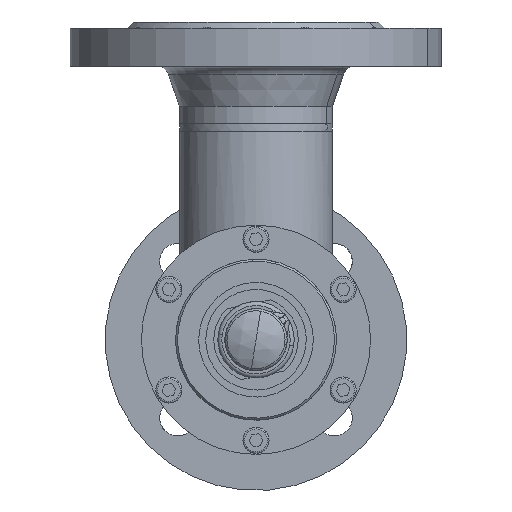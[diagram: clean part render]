
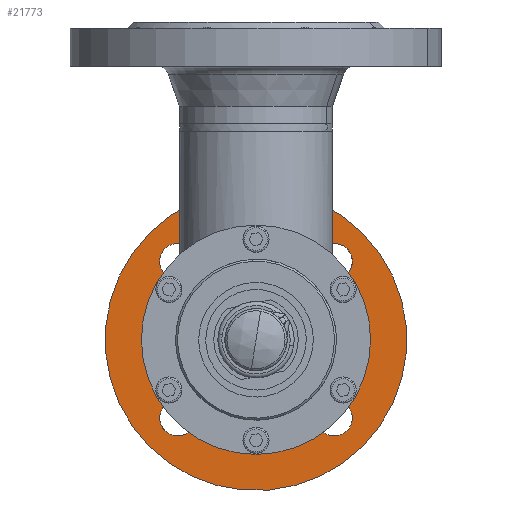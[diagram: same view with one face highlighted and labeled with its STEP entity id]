
A CAD part, front view. The second image highlights one B-rep face of the part: STEP entity #21773.
In plain terms, the highlighted planar face has unit normal (0, -1, 0) as drawn and (0, 1, 0) by its records, which use the part's own axes.
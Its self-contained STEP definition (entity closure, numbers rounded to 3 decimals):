
#144 = EDGE_CURVE ( 'NONE', #15401, #16656, #24326, .T. ) ;
#16656 = VERTEX_POINT ( 'NONE', #19121 ) ;
#17132 = VERTEX_POINT ( 'NONE', #20411 ) ;
#886 = ORIENTED_EDGE ( 'NONE', *, *, #144, .F. ) ;
#915 = FACE_BOUND ( 'NONE', #21492, .T. ) ;
#916 = FACE_BOUND ( 'NONE', #19648, .T. ) ;
#917 = FACE_BOUND ( 'NONE', #1915, .T. ) ;
#918 = FACE_BOUND ( 'NONE', #28699, .T. ) ;
#919 = FACE_BOUND ( 'NONE', #25089, .T. ) ;
#941 = FACE_OUTER_BOUND ( 'NONE', #11323, .T. ) ;
#942 = PLANE ( 'NONE',  #943 ) ;
#943 = AXIS2_PLACEMENT_3D ( 'NONE', #944, #945, #946 ) ;
#944 = CARTESIAN_POINT ( 'NONE',  ( 75., 18., 0. ) ) ;
#945 = DIRECTION ( 'NONE',  ( 0., -1., 0. ) ) ;
#946 = DIRECTION ( 'NONE',  ( 1., 0., 0. ) ) ;
#17362 = CARTESIAN_POINT ( 'NONE',  ( -36.091, 18., 0. ) ) ;
#17649 = CIRCLE ( 'NONE', #17650, 36.091 ) ;
#17650 = AXIS2_PLACEMENT_3D ( 'NONE', #17651, #17652, #17653 ) ;
#17651 = CARTESIAN_POINT ( 'NONE',  ( 0., 18., 0. ) ) ;
#17652 = DIRECTION ( 'NONE',  ( 0., 1., 0. ) ) ;
#17653 = DIRECTION ( 'NONE',  ( -1., 0., 0. ) ) ;
#1435 = VERTEX_POINT ( 'NONE', #25538 ) ;
#1827 = CIRCLE ( 'NONE', #1828, 36.091 ) ;
#1828 = AXIS2_PLACEMENT_3D ( 'NONE', #1829, #1830, #1831 ) ;
#1829 = CARTESIAN_POINT ( 'NONE',  ( 0., 18., 0. ) ) ;
#1830 = DIRECTION ( 'NONE',  ( 0., 1., 0. ) ) ;
#1831 = DIRECTION ( 'NONE',  ( -1., 0., 0. ) ) ;
#1877 = EDGE_CURVE ( 'NONE', #3643, #1435, #26269, .T. ) ;
#1915 = EDGE_LOOP ( 'NONE', ( #886, #29170 ) ) ;
#2321 = VERTEX_POINT ( 'NONE', #26792 ) ;
#2395 = ORIENTED_EDGE ( 'NONE', *, *, #10580, .F. ) ;
#19114 = VERTEX_POINT ( 'NONE', #23006 ) ;
#19121 = CARTESIAN_POINT ( 'NONE',  ( 9., 18., 55. ) ) ;
#2766 = EDGE_CURVE ( 'NONE', #19114, #2321, #27078, .T. ) ;
#19648 = EDGE_LOOP ( 'NONE', ( #29470, #2395 ) ) ;
#3419 = EDGE_CURVE ( 'NONE', #10135, #12347, #28149, .T. ) ;
#3524 = CARTESIAN_POINT ( 'NONE',  ( -75., 18., 0. ) ) ;
#19920 = ORIENTED_EDGE ( 'NONE', *, *, #1877, .F. ) ;
#3587 = CIRCLE ( 'NONE', #3588, 75. ) ;
#3588 = AXIS2_PLACEMENT_3D ( 'NONE', #3589, #3590, #3591 ) ;
#3589 = CARTESIAN_POINT ( 'NONE',  ( 0., 18., 0. ) ) ;
#3590 = DIRECTION ( 'NONE',  ( 0., 1., 0. ) ) ;
#3591 = DIRECTION ( 'NONE',  ( -1., 0., 0. ) ) ;
#3643 = VERTEX_POINT ( 'NONE', #28187 ) ;
#3957 = CIRCLE ( 'NONE', #3958, 75. ) ;
#3958 = AXIS2_PLACEMENT_3D ( 'NONE', #3959, #3960, #3979 ) ;
#3959 = CARTESIAN_POINT ( 'NONE',  ( 0., 18., 0. ) ) ;
#3960 = DIRECTION ( 'NONE',  ( 0., 1., 0. ) ) ;
#3979 = DIRECTION ( 'NONE',  ( -1., 0., 0. ) ) ;
#20411 = CARTESIAN_POINT ( 'NONE',  ( 36.091, 18., 0. ) ) ;
#20501 = EDGE_CURVE ( 'NONE', #1435, #3643, #28013, .T. ) ;
#20917 = ORIENTED_EDGE ( 'NONE', *, *, #20501, .F. ) ;
#21492 = EDGE_LOOP ( 'NONE', ( #20917, #19920 ) ) ;
#5139 = CARTESIAN_POINT ( 'NONE',  ( -64., 18., 0. ) ) ;
#21773 = ADVANCED_FACE ( 'NONE', ( #915, #916, #917, #918, #919, #941 ), #942, .F. ) ;
#5550 = CIRCLE ( 'NONE', #5551, 9. ) ;
#5551 = AXIS2_PLACEMENT_3D ( 'NONE', #5552, #5571, #5572 ) ;
#5552 = CARTESIAN_POINT ( 'NONE',  ( -55., 18., 0. ) ) ;
#5571 = DIRECTION ( 'NONE',  ( 0., 1., 0. ) ) ;
#5572 = DIRECTION ( 'NONE',  ( 1., 0., 0. ) ) ;
#5578 = CARTESIAN_POINT ( 'NONE',  ( 75., 18., 0. ) ) ;
#22218 = EDGE_CURVE ( 'NONE', #15889, #17132, #1827, .T. ) ;
#23006 = CARTESIAN_POINT ( 'NONE',  ( 64., 18., 0. ) ) ;
#7131 = CARTESIAN_POINT ( 'NONE',  ( -46., 18., 0. ) ) ;
#24326 = CIRCLE ( 'NONE', #24327, 9. ) ;
#24327 = AXIS2_PLACEMENT_3D ( 'NONE', #24328, #24329, #24330 ) ;
#24328 = CARTESIAN_POINT ( 'NONE',  ( 0., 18., 55. ) ) ;
#24329 = DIRECTION ( 'NONE',  ( 0., 1., 0. ) ) ;
#24330 = DIRECTION ( 'NONE',  ( 0., 0., -1. ) ) ;
#8448 = VERTEX_POINT ( 'NONE', #3524 ) ;
#8523 = EDGE_CURVE ( 'NONE', #10690, #8448, #3587, .T. ) ;
#25089 = EDGE_LOOP ( 'NONE', ( #12832, #11797 ) ) ;
#8929 = EDGE_CURVE ( 'NONE', #8448, #10690, #3957, .T. ) ;
#25538 = CARTESIAN_POINT ( 'NONE',  ( -9., 18., -55. ) ) ;
#25568 = ORIENTED_EDGE ( 'NONE', *, *, #2766, .F. ) ;
#9262 = ORIENTED_EDGE ( 'NONE', *, *, #8523, .T. ) ;
#26269 = CIRCLE ( 'NONE', #26270, 9. ) ;
#26270 = AXIS2_PLACEMENT_3D ( 'NONE', #26271, #26272, #26273 ) ;
#26271 = CARTESIAN_POINT ( 'NONE',  ( 0., 18., -55. ) ) ;
#26272 = DIRECTION ( 'NONE',  ( 0., 1., 0. ) ) ;
#26273 = DIRECTION ( 'NONE',  ( 0., 0., 1. ) ) ;
#10135 = VERTEX_POINT ( 'NONE', #5139 ) ;
#26601 = EDGE_CURVE ( 'NONE', #2321, #19114, #10753, .T. ) ;
#10285 = ORIENTED_EDGE ( 'NONE', *, *, #8929, .T. ) ;
#26792 = CARTESIAN_POINT ( 'NONE',  ( 46., 18., 0. ) ) ;
#10580 = EDGE_CURVE ( 'NONE', #12347, #10135, #5550, .T. ) ;
#10690 = VERTEX_POINT ( 'NONE', #5578 ) ;
#27078 = CIRCLE ( 'NONE', #27079, 9. ) ;
#27079 = AXIS2_PLACEMENT_3D ( 'NONE', #27080, #27081, #27082 ) ;
#27080 = CARTESIAN_POINT ( 'NONE',  ( 55., 18., 0. ) ) ;
#27081 = DIRECTION ( 'NONE',  ( 0., 1., 0. ) ) ;
#27082 = DIRECTION ( 'NONE',  ( -1., 0., 0. ) ) ;
#10753 = CIRCLE ( 'NONE', #10754, 9. ) ;
#10754 = AXIS2_PLACEMENT_3D ( 'NONE', #10755, #10756, #10757 ) ;
#10755 = CARTESIAN_POINT ( 'NONE',  ( 55., 18., 0. ) ) ;
#10756 = DIRECTION ( 'NONE',  ( 0., 1., 0. ) ) ;
#10757 = DIRECTION ( 'NONE',  ( -1., 0., 0. ) ) ;
#27336 = ORIENTED_EDGE ( 'NONE', *, *, #26601, .F. ) ;
#11323 = EDGE_LOOP ( 'NONE', ( #10285, #9262 ) ) ;
#28013 = CIRCLE ( 'NONE', #28014, 9. ) ;
#28014 = AXIS2_PLACEMENT_3D ( 'NONE', #28015, #28016, #28017 ) ;
#28015 = CARTESIAN_POINT ( 'NONE',  ( 0., 18., -55. ) ) ;
#28016 = DIRECTION ( 'NONE',  ( 0., 1., 0. ) ) ;
#28017 = DIRECTION ( 'NONE',  ( 0., 0., 1. ) ) ;
#28149 = CIRCLE ( 'NONE', #28150, 9. ) ;
#28150 = AXIS2_PLACEMENT_3D ( 'NONE', #28151, #28152, #28153 ) ;
#28151 = CARTESIAN_POINT ( 'NONE',  ( -55., 18., 0. ) ) ;
#28152 = DIRECTION ( 'NONE',  ( 0., 1., 0. ) ) ;
#28153 = DIRECTION ( 'NONE',  ( 1., 0., 0. ) ) ;
#11797 = ORIENTED_EDGE ( 'NONE', *, *, #16136, .F. ) ;
#28187 = CARTESIAN_POINT ( 'NONE',  ( 9., 18., -55. ) ) ;
#11843 = CARTESIAN_POINT ( 'NONE',  ( -9., 18., 55. ) ) ;
#28699 = EDGE_LOOP ( 'NONE', ( #27336, #25568 ) ) ;
#12347 = VERTEX_POINT ( 'NONE', #7131 ) ;
#29170 = ORIENTED_EDGE ( 'NONE', *, *, #15655, .F. ) ;
#12832 = ORIENTED_EDGE ( 'NONE', *, *, #22218, .F. ) ;
#29470 = ORIENTED_EDGE ( 'NONE', *, *, #3419, .F. ) ;
#15401 = VERTEX_POINT ( 'NONE', #11843 ) ;
#15476 = CIRCLE ( 'NONE', #15477, 9. ) ;
#15477 = AXIS2_PLACEMENT_3D ( 'NONE', #15478, #15479, #15480 ) ;
#15478 = CARTESIAN_POINT ( 'NONE',  ( 0., 18., 55. ) ) ;
#15479 = DIRECTION ( 'NONE',  ( 0., 1., 0. ) ) ;
#15480 = DIRECTION ( 'NONE',  ( 0., 0., -1. ) ) ;
#15655 = EDGE_CURVE ( 'NONE', #16656, #15401, #15476, .T. ) ;
#15889 = VERTEX_POINT ( 'NONE', #17362 ) ;
#16136 = EDGE_CURVE ( 'NONE', #17132, #15889, #17649, .T. ) ;
